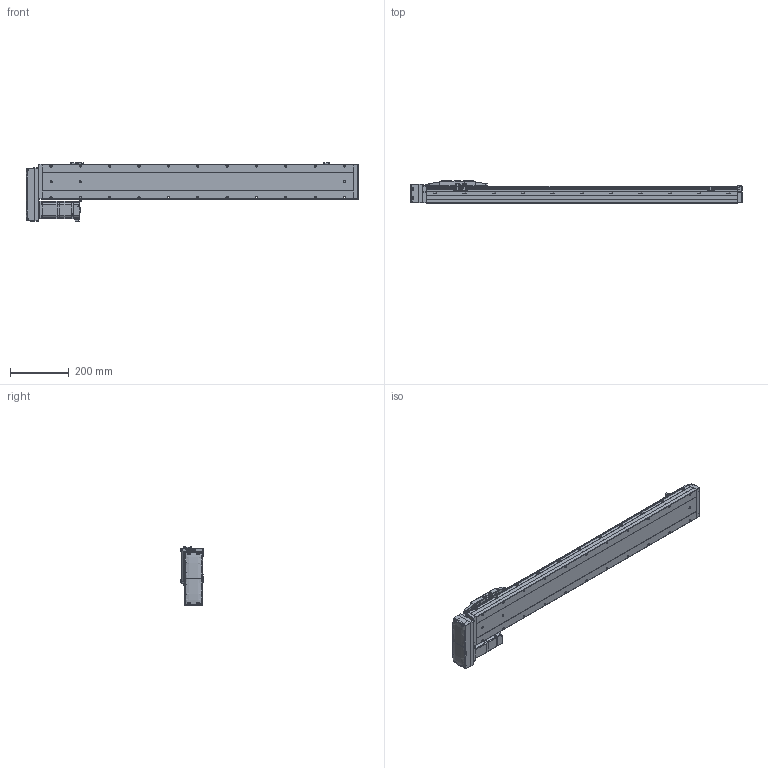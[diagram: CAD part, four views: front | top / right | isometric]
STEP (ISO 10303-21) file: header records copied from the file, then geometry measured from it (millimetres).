
FILE_DESCRIPTION (( 'STEP AP214' ), '1' );
FILE_NAME ('CTH12-L10-S850-BR-C40（简）.STEP', '2023-02-04T07:01:10', ( '' ), ( '' ), 'SwSTEP 2.0', 'SolidWorks 2018', '' );
FILE_SCHEMA (( 'AUTOMOTIVE_DESIGN' ));
Length unit declared in the file: millimetre
Products named in the file (24): CTH嫖萇羲壽假蚾啣; CTH12賑怢郪磁; 嫖萇羲壽郪磁1; 湮賑怢  裔赽-1(CTH12)賑怢; 内六角圆柱头螺钉M3-1; CTH12侧装连接板（标准）简; CTH12底座-L1061简（850行程）; CTH12-BL_body_4; 内六角圆柱头螺钉M3; CTH12-L10-S850-BR-C40（简）; CTH12賑怢ㄗ潠ㄘ; CTH12耜蚾裔; CTH12_body_3; CTH12覜茼え; 嫖萇羲壽郪磁2; CTH400W垫板（3个厚）; 内六角圆柱头螺钉M3-2; AC60_Valor predeterminado; CTH400W假蚾啣; M5蹟隊; 蚐郲; hex nuts, style 1-grades ab gb_GB_FASTENER_NUT_SNAB1 M3-N; CTH12; PM-Y45
Assembly tree (44 placements, depth 4):
  CTH12-L10-S850-BR-C40（简）
    CTH12底座-L1061简（850行程）
    蚐郲  x2
    CTH12_body_3
    CTH12-BL_body_4
    CTH12侧装连接板（标准）简
    CTH12耜蚾裔
    CTH12賑怢郪磁
      CTH12
        湮賑怢  裔赽-1(CTH12)賑怢
        CTH12賑怢ㄗ潠ㄘ
    CTH12覜茼え
    嫖萇羲壽郪磁1  x2
      CTH嫖萇羲壽假蚾啣
      PM-Y45
      内六角圆柱头螺钉M3-2
      内六角圆柱头螺钉M3-1
      hex nuts, style 1-grades ab gb_GB_FASTENER_NUT_SNAB1 M3-N
    嫖萇羲壽郪磁2
      CTH嫖萇羲壽假蚾啣
      PM-Y45
      内六角圆柱头螺钉M3-1  x2
      内六角圆柱头螺钉M3-2  x2
      hex nuts, style 1-grades ab gb_GB_FASTENER_NUT_SNAB1 M3-N  x2
    CTH400W垫板（3个厚）
    AC60_Valor predeterminado
    内六角圆柱头螺钉M3  x6
    M5蹟隊  x4
    CTH400W假蚾啣
Bounding box: 1131.5 x 76 x 201.06 mm (x, y, z)
Volume: 7821174.7 mm3; surface area: 710769.6 mm2
Topology: 47 solids, 48 shells, 2897 faces, 7386 edges, 4707 vertices
Faces by surface type: plane 1567, cylinder 807, cone 367, bspline 104, torus 52
Entity records: 84589 total; most frequent: CARTESIAN_POINT 23382, ORIENTED_EDGE 11952, DIRECTION 11631, EDGE_CURVE 5976, AXIS2_PLACEMENT_3D 3944, VERTEX_POINT 3811, VECTOR 3743, LINE 3743
